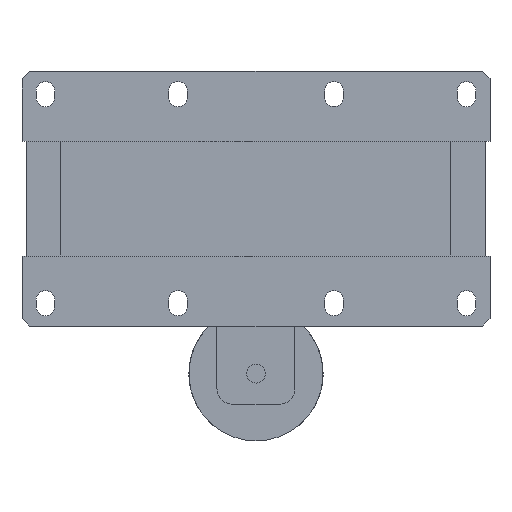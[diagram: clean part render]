
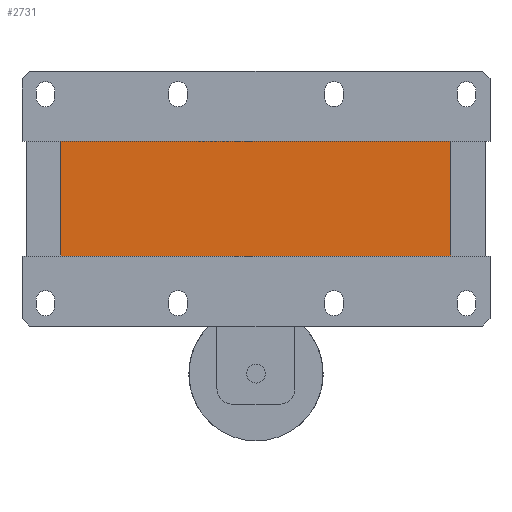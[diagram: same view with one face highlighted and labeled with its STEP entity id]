
A CAD part, front view. The second image highlights one B-rep face of the part: STEP entity #2731.
In plain terms, the highlighted planar face has unit normal (0, -1, 0).
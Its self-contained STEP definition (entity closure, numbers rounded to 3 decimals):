
#232=FACE_OUTER_BOUND('',#403,.T.);
#403=EDGE_LOOP('',(#2101,#2102,#2103,#2104));
#624=LINE('',#4197,#935);
#628=LINE('',#4205,#939);
#631=LINE('',#4211,#942);
#634=LINE('',#4216,#945);
#935=VECTOR('',#3398,10.);
#939=VECTOR('',#3404,10.);
#942=VECTOR('',#3409,10.);
#945=VECTOR('',#3414,10.);
#1226=VERTEX_POINT('',#4195);
#1227=VERTEX_POINT('',#4196);
#1230=VERTEX_POINT('',#4204);
#1232=VERTEX_POINT('',#4210);
#1538=EDGE_CURVE('',#1226,#1227,#624,.T.);
#1542=EDGE_CURVE('',#1227,#1230,#628,.T.);
#1545=EDGE_CURVE('',#1230,#1232,#631,.T.);
#1548=EDGE_CURVE('',#1232,#1226,#634,.T.);
#2101=ORIENTED_EDGE('',*,*,#1548,.T.);
#2102=ORIENTED_EDGE('',*,*,#1538,.T.);
#2103=ORIENTED_EDGE('',*,*,#1542,.T.);
#2104=ORIENTED_EDGE('',*,*,#1545,.T.);
#2599=PLANE('',#2951);
#2731=ADVANCED_FACE('',(#232),#2599,.T.);
#2951=AXIS2_PLACEMENT_3D('',#4218,#3416,#3417);
#3398=DIRECTION('',(0.,0.,1.));
#3404=DIRECTION('',(-1.,0.,0.));
#3409=DIRECTION('',(0.,0.,-1.));
#3414=DIRECTION('',(1.,0.,0.));
#3416=DIRECTION('center_axis',(0.,-1.,0.));
#3417=DIRECTION('ref_axis',(0.,0.,-1.));
#4195=CARTESIAN_POINT('',(125.,2.,-36.75));
#4196=CARTESIAN_POINT('',(125.,2.,36.75));
#4197=CARTESIAN_POINT('',(125.,2.,-36.75));
#4204=CARTESIAN_POINT('',(-125.,2.,36.75));
#4205=CARTESIAN_POINT('',(125.,2.,36.75));
#4210=CARTESIAN_POINT('',(-125.,2.,-36.75));
#4211=CARTESIAN_POINT('',(-125.,2.,36.75));
#4216=CARTESIAN_POINT('',(-125.,2.,-36.75));
#4218=CARTESIAN_POINT('Origin',(0.,2.,0.));
